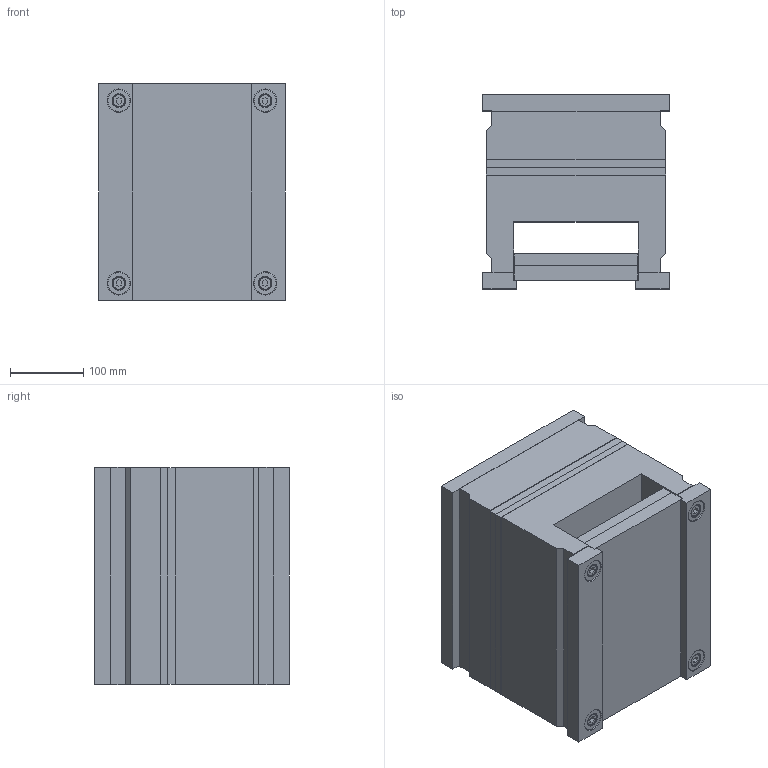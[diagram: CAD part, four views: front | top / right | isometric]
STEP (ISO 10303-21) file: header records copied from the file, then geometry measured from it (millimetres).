
FILE_DESCRIPTION (( 'STEP AP214' ), '1' );
FILE_NAME ('2462.STEP', '2002-07-10T07:53:59', ( 'Simcha Kilim' ), ( 'K. Plastics Engineering' ), 'SwSTEP 2.0', 'SolidWorks 2002025', '' );
FILE_SCHEMA (( 'AUTOMOTIVE_DESIGN' ));
Length unit declared in the file: millimetre
Products named in the file (12): 2462; ALMO (ejector return plate)_2462; ALMO (hot half)_2462; ALMO (ejector half)_2462; ALMO (ejector plate)_2462; ALMO (guide bush)_Ø18; ALMO (guide bush)_Ø19; ALMO (key plate)_Ø18; ALMO (guide pin)_Ø18; ALMO (screw)_M10x70; ALMO (guide pin)_Ø19; ALMO (screw)_M10x120
Assembly tree (28 placements, depth 2):
  2462
    ALMO (screw)_M10x70  x4
    ALMO (ejector plate)_2462
    ALMO (guide bush)_Ø18  x3
    ALMO (key plate)_Ø18  x8
    ALMO (screw)_M10x120  x4
    ALMO (guide pin)_Ø19
    ALMO (hot half)_2462
    ALMO (ejector half)_2462
    ALMO (guide pin)_Ø18  x3
    ALMO (guide bush)_Ø19
    ALMO (ejector return plate)_2462
Bounding box: 255 x 266 x 298 mm (x, y, z)
Volume: 16279469.1 mm3; surface area: 1047442.4 mm2
Topology: 28 solids, 28 shells, 706 faces, 1496 edges, 924 vertices
Faces by surface type: cylinder 260, plane 254, cone 192
Entity records: 10477 total; most frequent: DIRECTION 1914, CARTESIAN_POINT 1683, ORIENTED_EDGE 1584, EDGE_CURVE 792, AXIS2_PLACEMENT_3D 729, VERTEX_POINT 498, LINE 456, VECTOR 456
